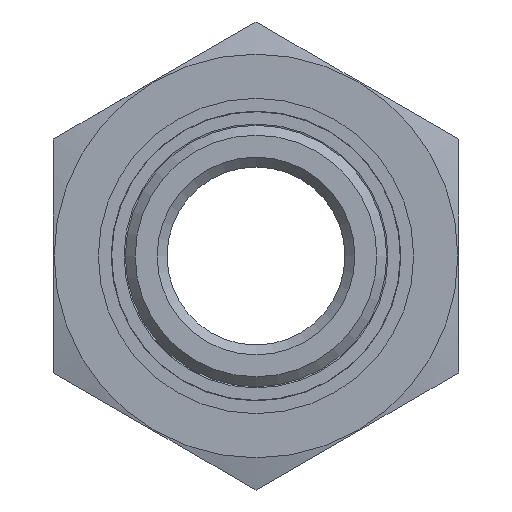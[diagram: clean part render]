
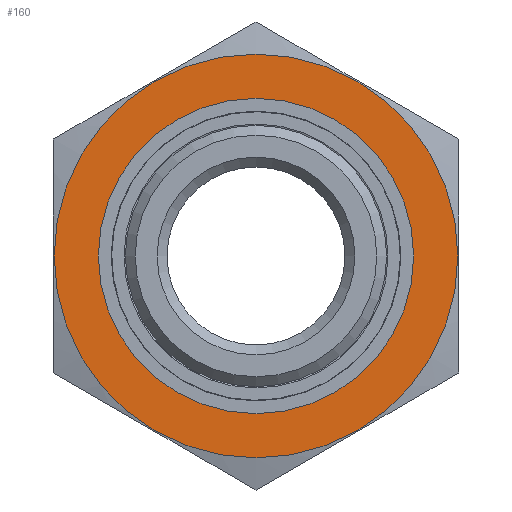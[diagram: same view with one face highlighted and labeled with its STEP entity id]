
A CAD part, left-side view. The second image highlights one B-rep face of the part: STEP entity #160.
In plain terms, the highlighted planar face has unit normal (-1, 0, 0).
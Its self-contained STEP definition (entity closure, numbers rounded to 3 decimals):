
#160 = ADVANCED_FACE( '', ( #324, #325 ), #326, .F. );
#324 = FACE_BOUND( '', #484, .T. );
#325 = FACE_OUTER_BOUND( '', #485, .T. );
#326 = PLANE( '', #486 );
#484 = EDGE_LOOP( '', ( #710 ) );
#485 = EDGE_LOOP( '', ( #711 ) );
#486 = AXIS2_PLACEMENT_3D( '', #712, #713, #714 );
#710 = ORIENTED_EDGE( '', *, *, #838, .F. );
#711 = ORIENTED_EDGE( '', *, *, #829, .T. );
#712 = CARTESIAN_POINT( '', ( -22., 0., 15.95 ) );
#713 = DIRECTION( '', ( 1., 0., 0. ) );
#714 = DIRECTION( '', ( 0., 0., -1. ) );
#829 = EDGE_CURVE( '', #949, #949, #950, .T. );
#838 = EDGE_CURVE( '', #963, #963, #964, .T. );
#949 = VERTEX_POINT( '', #1148 );
#950 = CIRCLE( '', #1149, 20.421 );
#963 = VERTEX_POINT( '', #1197 );
#964 = CIRCLE( '', #1198, 15.95 );
#1148 = CARTESIAN_POINT( '', ( -22., 0., 20.421 ) );
#1149 = AXIS2_PLACEMENT_3D( '', #1302, #1303, #1304 );
#1197 = CARTESIAN_POINT( '', ( -22., 0., 15.95 ) );
#1198 = AXIS2_PLACEMENT_3D( '', #1309, #1310, #1311 );
#1302 = CARTESIAN_POINT( '', ( -22., 0., 0. ) );
#1303 = DIRECTION( '', ( -1., 0., 0. ) );
#1304 = DIRECTION( '', ( 0., 0., 1. ) );
#1309 = CARTESIAN_POINT( '', ( -22., 0., 0. ) );
#1310 = DIRECTION( '', ( -1., 0., 0. ) );
#1311 = DIRECTION( '', ( 0., 0., 1. ) );
